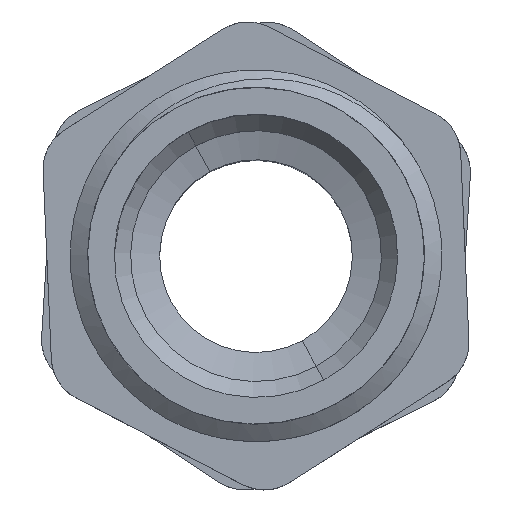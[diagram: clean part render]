
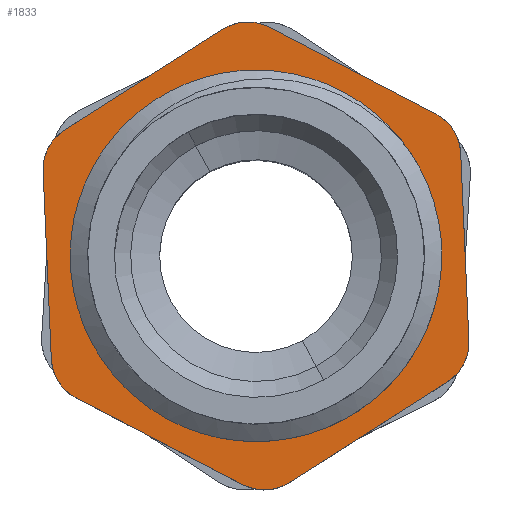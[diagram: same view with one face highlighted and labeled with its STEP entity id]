
A CAD part, top view. The second image highlights one B-rep face of the part: STEP entity #1833.
In plain terms, the highlighted planar face has unit normal (0, 0, 1).
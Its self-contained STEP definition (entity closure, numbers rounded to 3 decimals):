
#1516=CARTESIAN_POINT('Vertex',(-3.476,6.362,-3.8)) ;
#1519=CARTESIAN_POINT('Axis2P3D Location',(0.,0.,-3.8)) ;
#1523=CARTESIAN_POINT('Vertex',(3.476,-6.362,-3.8)) ;
#1714=CARTESIAN_POINT('Axis2P3D Location',(0.,0.,-3.8)) ;
#1726=CARTESIAN_POINT('Axis2P3D Location',(0.,0.,-3.8)) ;
#1731=CARTESIAN_POINT('Axis2P3D Location',(7.17,-3.732,-3.8)) ;
#1735=CARTESIAN_POINT('Vertex',(9.168,-3.645,-3.8)) ;
#1737=CARTESIAN_POINT('Vertex',(8.244,-5.419,-3.8)) ;
#1740=CARTESIAN_POINT('Line Origine',(8.991,0.393,-3.8)) ;
#1744=CARTESIAN_POINT('Vertex',(8.815,4.43,-3.8)) ;
#1747=CARTESIAN_POINT('Axis2P3D Location',(6.817,4.343,-3.8)) ;
#1751=CARTESIAN_POINT('Vertex',(7.741,6.117,-3.8)) ;
#1754=CARTESIAN_POINT('Line Origine',(4.156,7.983,-3.8)) ;
#1758=CARTESIAN_POINT('Vertex',(0.571,9.849,-3.8)) ;
#1761=CARTESIAN_POINT('Axis2P3D Location',(-0.353,8.075,-3.8)) ;
#1765=CARTESIAN_POINT('Vertex',(-1.427,9.762,-3.8)) ;
#1768=CARTESIAN_POINT('Line Origine',(-4.836,7.591,-3.8)) ;
#1772=CARTESIAN_POINT('Vertex',(-8.244,5.419,-3.8)) ;
#1775=CARTESIAN_POINT('Axis2P3D Location',(-7.17,3.732,-3.8)) ;
#1779=CARTESIAN_POINT('Vertex',(-9.168,3.645,-3.8)) ;
#1782=CARTESIAN_POINT('Line Origine',(-8.991,-0.393,-3.8)) ;
#1786=CARTESIAN_POINT('Vertex',(-8.815,-4.43,-3.8)) ;
#1789=CARTESIAN_POINT('Axis2P3D Location',(-6.817,-4.343,-3.8)) ;
#1793=CARTESIAN_POINT('Vertex',(-7.741,-6.117,-3.8)) ;
#1796=CARTESIAN_POINT('Line Origine',(-4.156,-7.983,-3.8)) ;
#1800=CARTESIAN_POINT('Vertex',(-0.571,-9.849,-3.8)) ;
#1803=CARTESIAN_POINT('Axis2P3D Location',(0.353,-8.075,-3.8)) ;
#1807=CARTESIAN_POINT('Vertex',(1.427,-9.762,-3.8)) ;
#1810=CARTESIAN_POINT('Line Origine',(4.836,-7.591,-3.8)) ;
#1520=DIRECTION('Axis2P3D Direction',(0.,0.,1.)) ;
#1715=DIRECTION('Axis2P3D Direction',(0.,0.,1.)) ;
#1727=DIRECTION('Axis2P3D Direction',(0.,0.,-1.)) ;
#1728=DIRECTION('Axis2P3D XDirection',(0.995,0.105,0.)) ;
#1732=DIRECTION('Axis2P3D Direction',(0.,0.,-1.)) ;
#1741=DIRECTION('Vector Direction',(-0.044,0.999,0.)) ;
#1748=DIRECTION('Axis2P3D Direction',(0.,0.,-1.)) ;
#1755=DIRECTION('Vector Direction',(-0.887,0.462,0.)) ;
#1762=DIRECTION('Axis2P3D Direction',(0.,0.,-1.)) ;
#1769=DIRECTION('Vector Direction',(-0.843,-0.537,0.)) ;
#1776=DIRECTION('Axis2P3D Direction',(0.,0.,-1.)) ;
#1783=DIRECTION('Vector Direction',(0.044,-0.999,0.)) ;
#1790=DIRECTION('Axis2P3D Direction',(0.,0.,-1.)) ;
#1797=DIRECTION('Vector Direction',(0.887,-0.462,0.)) ;
#1804=DIRECTION('Axis2P3D Direction',(0.,0.,-1.)) ;
#1811=DIRECTION('Vector Direction',(0.843,0.537,0.)) ;
#1521=AXIS2_PLACEMENT_3D('Circle Axis2P3D',#1519,#1520,$) ;
#1716=AXIS2_PLACEMENT_3D('Circle Axis2P3D',#1714,#1715,$) ;
#1729=AXIS2_PLACEMENT_3D('Plane Axis2P3D',#1726,#1727,#1728) ;
#1733=AXIS2_PLACEMENT_3D('Circle Axis2P3D',#1731,#1732,$) ;
#1749=AXIS2_PLACEMENT_3D('Circle Axis2P3D',#1747,#1748,$) ;
#1763=AXIS2_PLACEMENT_3D('Circle Axis2P3D',#1761,#1762,$) ;
#1777=AXIS2_PLACEMENT_3D('Circle Axis2P3D',#1775,#1776,$) ;
#1791=AXIS2_PLACEMENT_3D('Circle Axis2P3D',#1789,#1790,$) ;
#1805=AXIS2_PLACEMENT_3D('Circle Axis2P3D',#1803,#1804,$) ;
#1816=ORIENTED_EDGE('',*,*,#1739,.F.) ;
#1817=ORIENTED_EDGE('',*,*,#1746,.T.) ;
#1818=ORIENTED_EDGE('',*,*,#1753,.F.) ;
#1819=ORIENTED_EDGE('',*,*,#1760,.T.) ;
#1820=ORIENTED_EDGE('',*,*,#1767,.F.) ;
#1821=ORIENTED_EDGE('',*,*,#1774,.T.) ;
#1822=ORIENTED_EDGE('',*,*,#1781,.F.) ;
#1823=ORIENTED_EDGE('',*,*,#1788,.T.) ;
#1824=ORIENTED_EDGE('',*,*,#1795,.F.) ;
#1825=ORIENTED_EDGE('',*,*,#1802,.T.) ;
#1826=ORIENTED_EDGE('',*,*,#1809,.F.) ;
#1827=ORIENTED_EDGE('',*,*,#1814,.T.) ;
#1830=ORIENTED_EDGE('',*,*,#1718,.T.) ;
#1831=ORIENTED_EDGE('',*,*,#1525,.T.) ;
#1832=FACE_BOUND('',#1829,.T.) ;
#1742=VECTOR('Line Direction',#1741,1.) ;
#1756=VECTOR('Line Direction',#1755,1.) ;
#1770=VECTOR('Line Direction',#1769,1.) ;
#1784=VECTOR('Line Direction',#1783,1.) ;
#1798=VECTOR('Line Direction',#1797,1.) ;
#1812=VECTOR('Line Direction',#1811,1.) ;
#1833=ADVANCED_FACE('\X2\51E04F554F53\X0\.2',(#1828,#1832),#1730,.F.) ;
#1522=CIRCLE('generated circle',#1521,7.25) ;
#1717=CIRCLE('generated circle',#1716,7.25) ;
#1734=CIRCLE('generated circle',#1733,2.) ;
#1750=CIRCLE('generated circle',#1749,2.) ;
#1764=CIRCLE('generated circle',#1763,2.) ;
#1778=CIRCLE('generated circle',#1777,2.) ;
#1792=CIRCLE('generated circle',#1791,2.) ;
#1806=CIRCLE('generated circle',#1805,2.) ;
#1525=EDGE_CURVE('',#1524,#1517,#1522,.F.) ;
#1718=EDGE_CURVE('',#1517,#1524,#1717,.F.) ;
#1739=EDGE_CURVE('',#1736,#1738,#1734,.T.) ;
#1746=EDGE_CURVE('',#1736,#1745,#1743,.T.) ;
#1753=EDGE_CURVE('',#1752,#1745,#1750,.T.) ;
#1760=EDGE_CURVE('',#1752,#1759,#1757,.T.) ;
#1767=EDGE_CURVE('',#1766,#1759,#1764,.T.) ;
#1774=EDGE_CURVE('',#1766,#1773,#1771,.T.) ;
#1781=EDGE_CURVE('',#1780,#1773,#1778,.T.) ;
#1788=EDGE_CURVE('',#1780,#1787,#1785,.T.) ;
#1795=EDGE_CURVE('',#1794,#1787,#1792,.T.) ;
#1802=EDGE_CURVE('',#1794,#1801,#1799,.T.) ;
#1809=EDGE_CURVE('',#1808,#1801,#1806,.T.) ;
#1814=EDGE_CURVE('',#1808,#1738,#1813,.T.) ;
#1815=EDGE_LOOP('',(#1816,#1817,#1818,#1819,#1820,#1821,#1822,#1823,#1824,#1825,#1826,#1827)) ;
#1829=EDGE_LOOP('',(#1830,#1831)) ;
#1828=FACE_OUTER_BOUND('',#1815,.T.) ;
#1743=LINE('Line',#1740,#1742) ;
#1757=LINE('Line',#1754,#1756) ;
#1771=LINE('Line',#1768,#1770) ;
#1785=LINE('Line',#1782,#1784) ;
#1799=LINE('Line',#1796,#1798) ;
#1813=LINE('Line',#1810,#1812) ;
#1730=PLANE('',#1729) ;
#1517=VERTEX_POINT('',#1516) ;
#1524=VERTEX_POINT('',#1523) ;
#1736=VERTEX_POINT('',#1735) ;
#1738=VERTEX_POINT('',#1737) ;
#1745=VERTEX_POINT('',#1744) ;
#1752=VERTEX_POINT('',#1751) ;
#1759=VERTEX_POINT('',#1758) ;
#1766=VERTEX_POINT('',#1765) ;
#1773=VERTEX_POINT('',#1772) ;
#1780=VERTEX_POINT('',#1779) ;
#1787=VERTEX_POINT('',#1786) ;
#1794=VERTEX_POINT('',#1793) ;
#1801=VERTEX_POINT('',#1800) ;
#1808=VERTEX_POINT('',#1807) ;
